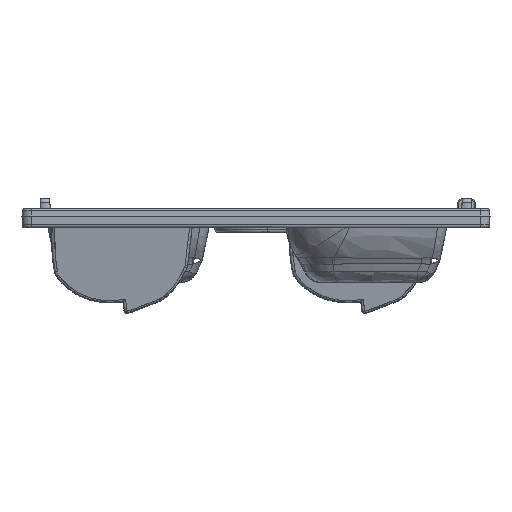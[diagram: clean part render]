
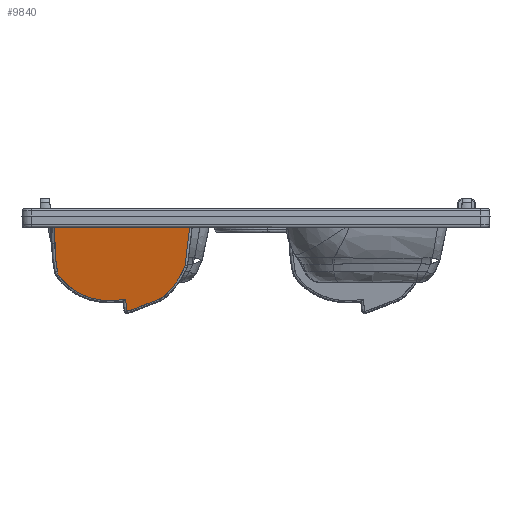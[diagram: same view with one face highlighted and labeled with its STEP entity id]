
A CAD part, left-side view. The second image highlights one B-rep face of the part: STEP entity #9840.
In plain terms, the highlighted planar face has unit normal (0.975, 0.081, 0.208).
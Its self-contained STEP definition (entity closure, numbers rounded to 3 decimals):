
#4459=B_SPLINE_CURVE_WITH_KNOTS($,5,(#121267,#121268,#121269,#121270,#121271,
#121272,#121273,#121274,#121275,#121276,#121277,#121278,#121279,#121280,
#121281,#121282,#121283,#121284,#121285,#121286,#121287,#121288,#121289,
#121290,#121291,#121292,#121293,#121294,#121295,#121296,#121297,#121298,
#121299,#121300,#121301,#121302,#121303,#121304,#121305,#121306,#121307,
#121308,#121309,#121310,#121311,#121312,#121313,#121314,#121315,#121316,
#121317,#121318,#121319,#121320,#121321,#121322,#121323,#121324,#121325,
#121326,#121327,#121328,#121329,#121330),.UNSPECIFIED.,.T.,.F.,(6,5,5,5,
5,5,5,5,5,5,5,3,5,6),(10.108,15.477,16.495,21.545,
22.703,27.4,29.377,38.972,39.013,
41.104,46.282,48.039,48.792,49.792),
.UNSPECIFIED.);
#9840=ADVANCED_FACE($,(#11554),#29342,.T.);
#11554=FACE_OUTER_BOUND($,#13312,.T.);
#13312=EDGE_LOOP($,(#17751));
#17751=ORIENTED_EDGE($,*,*,#22911,.T.);
#22911=EDGE_CURVE($,#28071,#28071,#4459,.T.);
#28071=VERTEX_POINT($,#121332);
#29342=PLANE($,#31362);
#31362=AXIS2_PLACEMENT_3D($,#121331,#31645,$);
#31645=DIRECTION($,(0.975,0.081,0.208));
#121267=CARTESIAN_POINT($,(-59.627,7.094,-21.075));
#121268=CARTESIAN_POINT($,(-59.462,7.188,-21.885));
#121269=CARTESIAN_POINT($,(-59.298,7.284,-22.695));
#121270=CARTESIAN_POINT($,(-59.133,7.381,-23.505));
#121271=CARTESIAN_POINT($,(-58.968,7.479,-24.314));
#121272=CARTESIAN_POINT($,(-58.804,7.578,-25.124));
#121273=CARTESIAN_POINT($,(-58.797,7.583,-25.159));
#121274=CARTESIAN_POINT($,(-58.79,7.59,-25.195));
#121275=CARTESIAN_POINT($,(-58.783,7.599,-25.23));
#121276=CARTESIAN_POINT($,(-58.776,7.61,-25.265));
#121277=CARTESIAN_POINT($,(-58.77,7.624,-25.3));
#121278=CARTESIAN_POINT($,(-58.643,7.906,-26.004));
#121279=CARTESIAN_POINT($,(-58.53,8.274,-26.68));
#121280=CARTESIAN_POINT($,(-58.432,8.723,-27.316));
#121281=CARTESIAN_POINT($,(-58.351,9.246,-27.899));
#121282=CARTESIAN_POINT($,(-58.288,9.833,-28.422));
#121283=CARTESIAN_POINT($,(-58.281,9.907,-28.487));
#121284=CARTESIAN_POINT($,(-58.274,9.988,-28.548));
#121285=CARTESIAN_POINT($,(-58.27,10.076,-28.603));
#121286=CARTESIAN_POINT($,(-58.267,10.168,-28.651));
#121287=CARTESIAN_POINT($,(-58.267,10.264,-28.691));
#121288=CARTESIAN_POINT($,(-58.264,10.952,-28.975));
#121289=CARTESIAN_POINT($,(-58.263,11.646,-29.251));
#121290=CARTESIAN_POINT($,(-58.264,12.347,-29.519));
#121291=CARTESIAN_POINT($,(-58.267,13.053,-29.779));
#121292=CARTESIAN_POINT($,(-58.272,13.764,-30.033));
#121293=CARTESIAN_POINT($,(-58.332,13.803,-29.768));
#121294=CARTESIAN_POINT($,(-58.391,13.841,-29.504));
#121295=CARTESIAN_POINT($,(-58.451,13.879,-29.24));
#121296=CARTESIAN_POINT($,(-58.51,13.917,-28.975));
#121297=CARTESIAN_POINT($,(-58.57,13.955,-28.711));
#121298=CARTESIAN_POINT($,(-58.624,15.467,-29.051));
#121299=CARTESIAN_POINT($,(-58.77,17.084,-28.998));
#121300=CARTESIAN_POINT($,(-59.005,18.669,-28.513));
#121301=CARTESIAN_POINT($,(-59.318,20.013,-27.571));
#121302=CARTESIAN_POINT($,(-59.659,20.951,-26.339));
#121303=CARTESIAN_POINT($,(-59.659,20.953,-26.337));
#121304=CARTESIAN_POINT($,(-59.66,20.954,-26.335));
#121305=CARTESIAN_POINT($,(-59.661,20.955,-26.333));
#121306=CARTESIAN_POINT($,(-59.661,20.957,-26.331));
#121307=CARTESIAN_POINT($,(-59.662,20.958,-26.329));
#121308=CARTESIAN_POINT($,(-59.696,21.05,-26.206));
#121309=CARTESIAN_POINT($,(-59.727,21.114,-26.085));
#121310=CARTESIAN_POINT($,(-59.755,21.161,-25.969));
#121311=CARTESIAN_POINT($,(-59.782,21.196,-25.856));
#121312=CARTESIAN_POINT($,(-59.808,21.22,-25.744));
#121313=CARTESIAN_POINT($,(-59.943,21.348,-25.161));
#121314=CARTESIAN_POINT($,(-60.077,21.429,-24.565));
#121315=CARTESIAN_POINT($,(-60.209,21.478,-23.964));
#121316=CARTESIAN_POINT($,(-60.34,21.501,-23.362));
#121317=CARTESIAN_POINT($,(-60.468,21.497,-22.759));
#121318=CARTESIAN_POINT($,(-60.518,21.495,-22.523));
#121319=CARTESIAN_POINT($,(-60.568,21.493,-22.288));
#121320=CARTESIAN_POINT($,(-60.618,21.491,-22.052));
#121321=CARTESIAN_POINT($,(-60.69,21.487,-21.715));
#121322=CARTESIAN_POINT($,(-60.761,21.483,-21.378));
#121323=CARTESIAN_POINT($,(-60.783,21.482,-21.277));
#121324=CARTESIAN_POINT($,(-60.804,21.481,-21.176));
#121325=CARTESIAN_POINT($,(-60.826,21.48,-21.075));
#121326=CARTESIAN_POINT($,(-60.586,18.602,-21.075));
#121327=CARTESIAN_POINT($,(-60.346,15.725,-21.075));
#121328=CARTESIAN_POINT($,(-60.107,12.848,-21.075));
#121329=CARTESIAN_POINT($,(-59.867,9.971,-21.075));
#121330=CARTESIAN_POINT($,(-59.627,7.094,-21.075));
#121331=CARTESIAN_POINT($,(-57.73,7.252,-30.033));
#121332=CARTESIAN_POINT($,(-59.627,7.094,-21.075));
